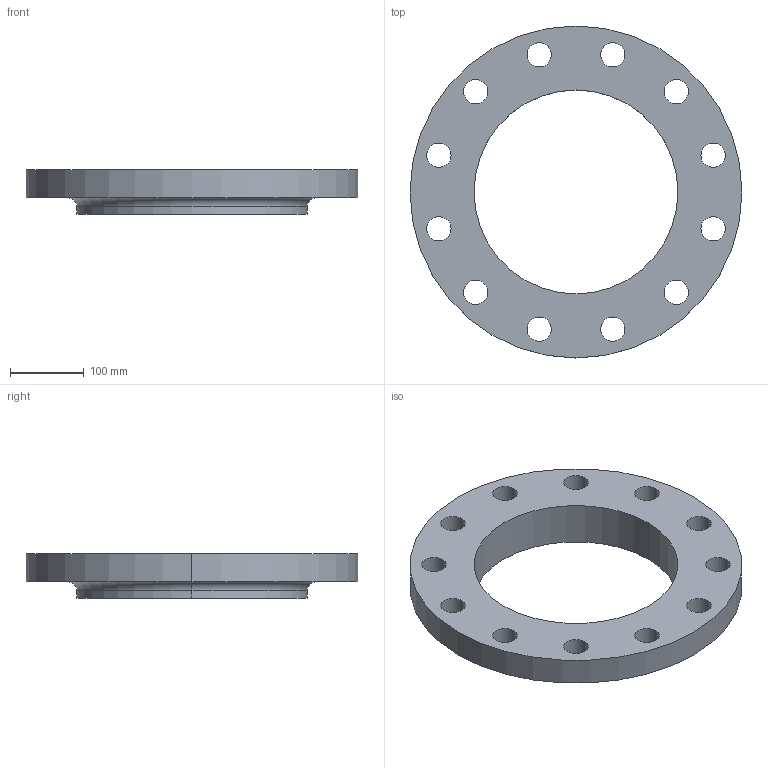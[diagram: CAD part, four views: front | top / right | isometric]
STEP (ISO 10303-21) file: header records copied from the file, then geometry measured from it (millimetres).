
FILE_DESCRIPTION (( 'STEP AP214' ), '1' );
FILE_NAME ('PN40 DN250 Type 12 - Type A Face.STEP', '2019-01-05T16:08:12', ( '' ), ( '' ), 'SwSTEP 2.0', 'SolidWorks 2019', '' );
FILE_SCHEMA (( 'AUTOMOTIVE_DESIGN' ));
Length unit declared in the file: millimetre
Products named in the file (1): PN40 DN250 Type 12 - Type A Face
Bounding box: 450 x 450 x 60 mm (x, y, z)
Volume: 3763689.4 mm3; surface area: 347162.7 mm2
Topology: 1 solids, 1 shells, 35 faces, 94 edges, 62 vertices
Faces by surface type: cylinder 30, plane 3, torus 2
Entity records: 1222 total; most frequent: DIRECTION 230, CARTESIAN_POINT 192, ORIENTED_EDGE 188, AXIS2_PLACEMENT_3D 100, EDGE_CURVE 94, CIRCLE 64, VERTEX_POINT 62, EDGE_LOOP 62
